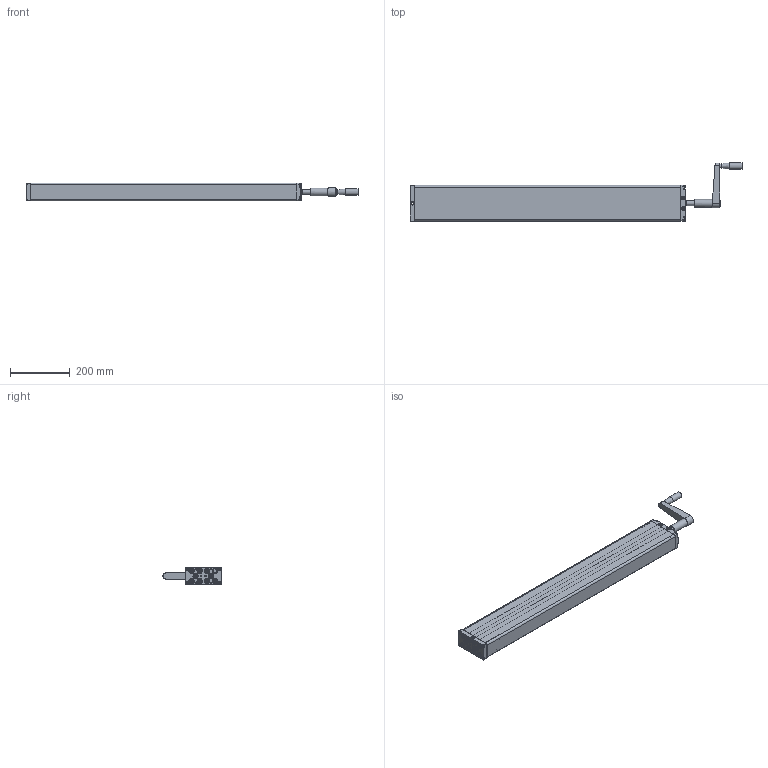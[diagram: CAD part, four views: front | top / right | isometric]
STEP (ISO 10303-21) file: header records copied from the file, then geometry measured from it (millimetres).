
FILE_DESCRIPTION(/* description */ ('Unknown'),/* implementation_level */ '2;1');
FILE_NAME(/* name */ '312.20186 Pumpe PB 9440 W mit Handkurbel',/* time_stamp */ '2016-11-25T13:59:55+01:00',/* author */ ('Unknown'),/* organization */ ('Unknown'),/* preprocessor_version */ 'ST-DEVELOPER v16.7',/* originating_system */ 'DEX',/* authorisation */ $);
FILE_SCHEMA (('AUTOMOTIVE_DESIGN {1 0 10303 214 3 1 1}'));
Products named in the file (22): 102.00186; 115.10027; 125.00031; 115.00007; 142.00021; 125.00021; 113.00005; 128.00001; 125.00052; 126.00013; 125.00053; 127.00014; Handgriff; 142.00013; 125.00147; 115.00140; 126.00006; 122.00040; 119.00047; 126.00036; 142.00057; 142.00017
Assembly tree (37 placements, depth 3):
  102.00186
    115.10027  x9
      125.00031
      115.00007
      142.00021
      125.00021
    113.00005
      128.00001
      125.00052
      126.00013
      125.00053
      127.00014
      Handgriff
    142.00013  x8
    125.00147
    115.00140
      126.00006
      122.00040
    119.00047
    126.00036
    142.00057
    142.00017  x2
Bounding box: 1113.75 x 195.5 x 60.3 mm (x, y, z)
Volume: 1236071.7 mm3; surface area: 817346 mm2
Topology: 49 solids, 49 shells, 2230 faces, 5087 edges, 2989 vertices
Faces by surface type: plane 799, cylinder 515, bspline 380, cone 373, torus 104, sphere 59
Full cylindrical faces by diameter (mm): 3.5 x9, 4 x2, 4.1 x9, 4.134 x4, 4.2 x10, 4.917 x4, 5 x8, 5.8 x4, 6 x2, 6.8 x1, 6.917 x18, 8 x20, 9 x9, 9.8 x8, 10 x6, 10.4 x1, 10.5 x4, 12.5 x9, 12.8 x1, 13 x29, 13.9 x18, 14 x1, 16 x2, 17 x1, 18 x11, 19 x1, 20.6 x1, 21 x1, 22 x1, 25.5 x1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
Entity records: 63571 total; most frequent: CARTESIAN_POINT 30445, ORIENTED_EDGE 5318, DIRECTION 4751, EDGE_CURVE 2659, AXIS2_PLACEMENT_3D 1851, VERTEX_POINT 1690, FACE_BOUND 1519, EDGE_LOOP 1516
